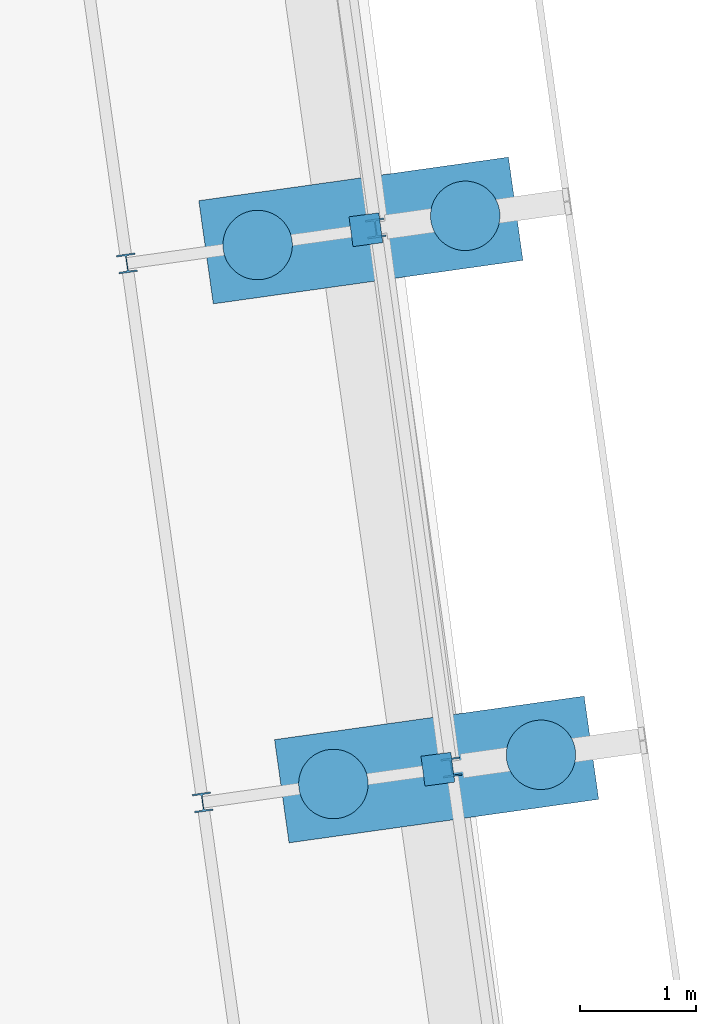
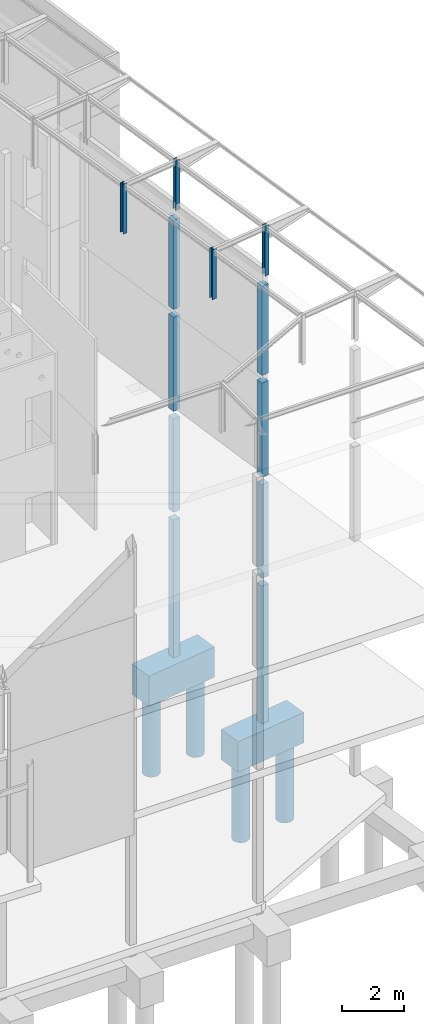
# One storey, part 57 of 82: 18 columns.
"""IFC2X3 building model written with IfcOpenShell, lengths in millimetres."""

from ifc_helpers import new_model, si_unit, frame, frame_2d, origin_with_axes, place, context, subcontext, project, spatial, rectangle, circle, i_section, extrude, material, type_object, element, save


model = new_model("IFC2X3")

# Units and contexts
model_context = context("Model", 3, precision=1e-05, world=origin_with_axes())
body_context = subcontext(model_context, "Body", "Model", "MODEL_VIEW")
ifc_project = project(units=[si_unit("LENGTHUNIT", "METRE", prefix="MILLI"), si_unit("AREAUNIT", "SQUARE_METRE"), si_unit("VOLUMEUNIT", "CUBIC_METRE"), si_unit("MASSUNIT", "GRAM", prefix="KILO"), si_unit("TIMEUNIT", "SECOND"), si_unit("PLANEANGLEUNIT", "RADIAN"), si_unit("SOLIDANGLEUNIT", "STERADIAN"), si_unit("THERMODYNAMICTEMPERATUREUNIT", "DEGREE_CELSIUS"), si_unit("LUMINOUSINTENSITYUNIT", "LUMEN")], contexts=[model_context])

# Site, building, storey
site_placement = place(None, origin_with_axes())
site = spatial("IfcSite", under=ifc_project, at=site_placement, Name="Undefined", CompositionType="ELEMENT")
building_placement = place(site_placement, origin_with_axes())
building = spatial("IfcBuilding", under=site, at=building_placement, Name="Undefined", CompositionType="ELEMENT")
storey_placement = place(building_placement, origin_with_axes())
storey = spatial("IfcBuildingStorey", under=building, at=storey_placement, Name="Undefined", CompositionType="ELEMENT", Elevation=0.0)

# Columns
ifc_material_1 = material(Name="CONCRETE/C25/30")
column_type_1 = type_object("IfcColumnType", Name="260*260", PredefinedType="NOTDEFINED")
for number, where, z_axis, x_axis, name in (
    (1, (66518.408764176, 13948.0445422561, 13330.0), (0.0, 0.0, 1.0), (1.0, 0.0, 0.0), "POTEAU"),
    (2, (67139.9912113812, 9289.52955652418, 13330.0), (0.0, 0.0, 1.0), (1.0, 0.0, 0.0), "POTEAU"),
):
    element("IfcColumn", number, at=place(storey_placement, frame(where, z_axis=z_axis, x_axis=x_axis)), inside=storey, type_object=column_type_1, material=ifc_material_1, Name=name, ObjectType="260*260", context=body_context, shape_type="SweptSolid", body=[
        extrude(rectangle(XDim=260.0, YDim=260.0, at=frame_2d((5.17284206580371e-08, 4.49290382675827e-10), x_axis=(1.0, 0.0))), frame((0.0, 0.0, 3529.99999999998), z_axis=(0.0, -6.50000002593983e-08, -0.999999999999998), x_axis=(0.132256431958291, -0.991215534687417, 0.0)), (0.0, 0.0, 1.0), 3530.0),
    ])
for number, where, z_axis, x_axis, name in (
    (3, (66518.408764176, 13948.0445422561, 9305.0), (0.0, 0.0, 1.0), (1.0, 0.0, 0.0), "POTEAU"),
    (4, (67139.9912113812, 9289.52955652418, 9305.0), (0.0, 0.0, 1.0), (1.0, 0.0, 0.0), "POTEAU"),
):
    element("IfcColumn", number, at=place(storey_placement, frame(where, z_axis=z_axis, x_axis=x_axis)), inside=storey, type_object=column_type_1, material=ifc_material_1, Name=name, ObjectType="260*260", context=body_context, shape_type="SweptSolid", body=[
        extrude(rectangle(XDim=260.0, YDim=260.0, at=frame_2d((5.17284206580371e-08, 4.49290382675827e-10), x_axis=(1.0, 0.0))), frame((0.0, 0.0, 3725.0), z_axis=(0.0, -6.50000002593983e-08, -0.999999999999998), x_axis=(0.132256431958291, -0.991215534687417, 0.0)), (0.0, 0.0, 1.0), 3725.0),
    ])
for number, where, z_axis, x_axis, name in (
    (5, (66518.408764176, 13948.0445422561, 5300.0), (0.0, 0.0, 1.0), (1.0, 0.0, 0.0), "POTEAU"),
    (6, (67139.9912113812, 9289.52955652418, 5300.0), (0.0, 0.0, 1.0), (1.0, 0.0, 0.0), "POTEAU"),
):
    element("IfcColumn", number, at=place(storey_placement, frame(where, z_axis=z_axis, x_axis=x_axis)), inside=storey, type_object=column_type_1, material=ifc_material_1, Name=name, ObjectType="260*260", context=body_context, shape_type="SweptSolid", body=[
        extrude(rectangle(XDim=260.0, YDim=260.0, at=frame_2d((5.17284206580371e-08, 4.49290382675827e-10), x_axis=(1.0, 0.0))), frame((0.0, 0.0, 3705.00000000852), z_axis=(0.0, -6.50000002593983e-08, -0.999999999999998), x_axis=(0.132256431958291, -0.991215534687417, 0.0)), (0.0, 0.0, 1.0), 3705.0),
    ])
for number, where, z_axis, x_axis, name in (
    (7, (66518.408764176, 13948.0445422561, -450.000000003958), (0.0, 0.0, 1.0), (1.0, 0.0, 0.0), "POTEAU"),
    (8, (67139.9912113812, 9289.52955652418, -450.000000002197), (0.0, 0.0, 1.0), (1.0, 0.0, 0.0), "POTEAU"),
):
    element("IfcColumn", number, at=place(storey_placement, frame(where, z_axis=z_axis, x_axis=x_axis)), inside=storey, type_object=column_type_1, material=ifc_material_1, Name=name, ObjectType="260*260", context=body_context, shape_type="SweptSolid", body=[
        extrude(rectangle(XDim=260.0, YDim=260.0, at=frame_2d((5.17284206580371e-08, 4.49290382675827e-10), x_axis=(1.0, 0.0))), frame((0.0, 0.0, 5450.00000000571), z_axis=(0.0, -6.50000002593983e-08, -0.999999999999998), x_axis=(0.132256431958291, -0.991215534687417, 0.0)), (0.0, 0.0, 1.0), 5450.0),
    ])
ifc_material_2 = material(Name="STEEL/S275JR")
column_type_2 = type_object("IfcColumnType", Name="HEB160", PredefinedType="NOTDEFINED")
for number, where, z_axis, x_axis, name in (
    (9, (66603.5192245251, 13959.4057613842, 17160.0), (0.0, 0.0, 1.0), (1.0, 0.0, 0.0), "POTEAU"),
    (10, (64454.637108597, 13657.3955201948, 17160.0), (0.0, 0.0, 1.0), (1.0, 0.0, 0.0), "POTEAU"),
    (11, (65108.7512850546, 9003.13568165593, 17160.0), (0.0, 0.0, 1.0), (1.0, 0.0, 0.0), "POTEAU"),
    (12, (67257.6334009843, 9305.14592284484, 17160.0), (0.0, 0.0, 1.0), (1.0, 0.0, 0.0), "POTEAU"),
):
    element("IfcColumn", number, at=place(storey_placement, frame(where, z_axis=z_axis, x_axis=x_axis)), inside=storey, type_object=column_type_2, material=ifc_material_2, Name=name, ObjectType="HEB160", context=body_context, shape_type="SweptSolid", body=[
        extrude(i_section(OverallWidth=160.0, OverallDepth=160.0, WebThickness=8.0, FlangeThickness=13.0, FilletRadius=15.0, at=frame_2d((5.17284206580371e-08, 4.49290382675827e-10), x_axis=(1.0, 0.0))), frame((0.0, 0.0, 1965.0), z_axis=(0.0, -6.50000002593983e-08, -0.999999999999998), x_axis=(-0.990268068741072, -0.13917310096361, 0.0)), (0.0, 0.0, 1.0), 1965.0),
    ])
ifc_material_3 = material(Name="CONCRETE/C30/37")
column_type_3 = type_object("IfcColumnType", Name="2700*900", PredefinedType="NOTDEFINED")
for number, where, z_axis, x_axis, name in (
    (13, (66474.7915365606, 13941.3082057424, -1650.00000000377), (0.0, 0.0, 1.0), (1.0, 0.0, 0.0), "SEMELLE"),
    (14, (67128.9021620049, 9287.05166855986, -1650.00000000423), (0.0, 0.0, 1.0), (1.0, 0.0, 0.0), "SEMELLE"),
):
    element("IfcColumn", number, at=place(storey_placement, frame(where, z_axis=z_axis, x_axis=x_axis)), inside=storey, type_object=column_type_3, material=ifc_material_3, Name=name, ObjectType="2700*900", context=body_context, shape_type="SweptSolid", body=[
        extrude(rectangle(XDim=900.0, YDim=2700.0, at=frame_2d((5.17284206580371e-08, 4.49290382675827e-10), x_axis=(1.0, 0.0))), frame((0.0, 0.0, 1200.0), z_axis=(0.0, -6.50000002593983e-08, -0.999999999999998), x_axis=(0.13917310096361, -0.990268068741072, 0.0)), (0.0, 0.0, 1.0), 1200.0),
    ])
column_type_4 = type_object("IfcColumnType", Name="D600", PredefinedType="NOTDEFINED")
for number, where, z_axis, x_axis in (
    (15, (66237.6564693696, 9161.79532252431, -4675.0), (0.0, 0.0, 1.0), (1.0, 0.0, 0.0)),
    (16, (68030.0416738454, 9413.69863526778, -4675.0), (0.0, 0.0, 1.0), (1.0, 0.0, 0.0)),
    (17, (65583.5458439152, 13816.0518597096, -4675.0), (0.0, 0.0, 1.0), (1.0, 0.0, 0.0)),
    (18, (67375.9310483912, 14067.9551724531, -4675.0), (0.0, 0.0, 1.0), (1.0, 0.0, 0.0)),
):
    element("IfcColumn", number, at=place(storey_placement, frame(where, z_axis=z_axis, x_axis=x_axis)), inside=storey, type_object=column_type_4, material=ifc_material_1, Name="PIEU", ObjectType="D600", context=body_context, shape_type="SweptSolid", body=[
        extrude(circle(Radius=300.0, at=frame_2d((5.17284206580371e-08, 4.49290382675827e-10), x_axis=(1.0, 0.0))), frame((0.0, 0.0, 3250.0), z_axis=(0.0, -6.50000002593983e-08, -0.999999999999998), x_axis=(-0.132256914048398, 0.991215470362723, 0.0)), (0.0, 0.0, 1.0), 3250.0),
    ])

save(model, "model.ifc")
